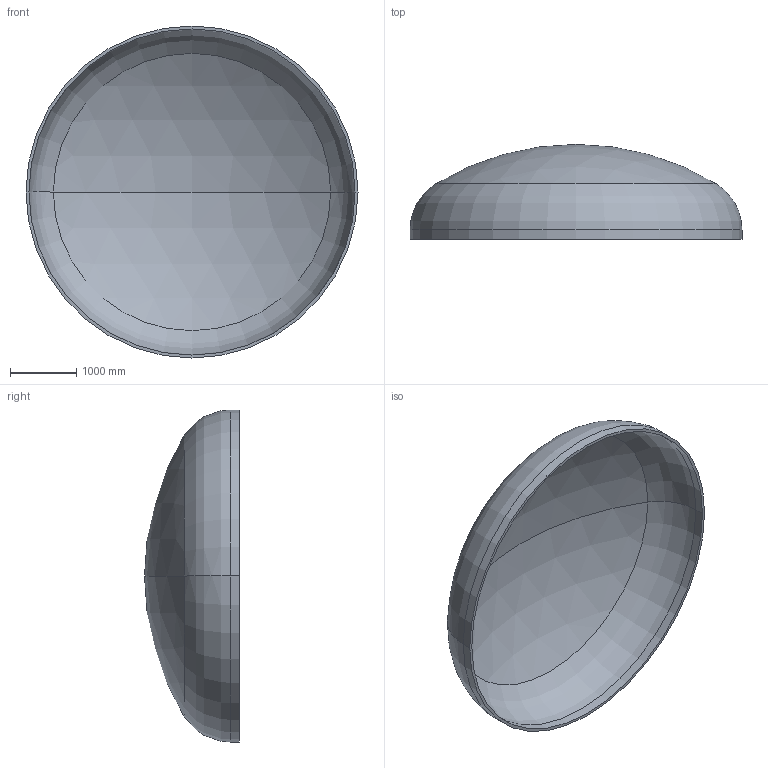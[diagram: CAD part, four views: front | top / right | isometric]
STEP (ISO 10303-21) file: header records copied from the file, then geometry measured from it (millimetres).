
FILE_DESCRIPTION (( 'STEP AP203' ), '1' );
FILE_NAME ('DIN 28013 Korbbogenform_-_Boden DIN 28013 - 5000 x 140 - I - s=44.step', '2016-07-02T00:30:44', ( '' ), ( '' ), 'SwSTEP 2.0', 'SolidWorks 2013', '' );
FILE_SCHEMA (( 'CONFIG_CONTROL_DESIGN' ));
Length unit declared in the file: millimetre
Products named in the file (1): DIN 28013 Korbbogenform_-_Boden DIN 28013 - 5000 x 140 - I - s=44
Bounding box: 5000 x 1428.95 x 5000 mm (x, y, z)
Volume: 1278610549.7 mm3; surface area: 58807762.6 mm2
Topology: 1 solids, 1 shells, 13 faces, 24 edges, 14 vertices
Faces by surface type: torus 4, cylinder 4, sphere 4, plane 1
Entity records: 407 total; most frequent: DIRECTION 72, CARTESIAN_POINT 52, ORIENTED_EDGE 48, AXIS2_PLACEMENT_3D 34, EDGE_CURVE 24, CIRCLE 20, EDGE_LOOP 14, VERTEX_POINT 14
